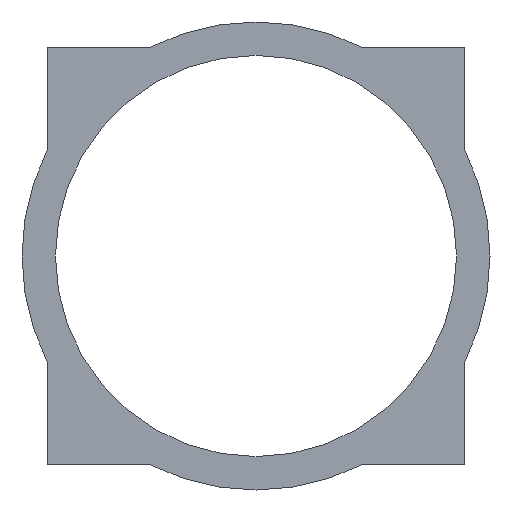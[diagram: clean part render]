
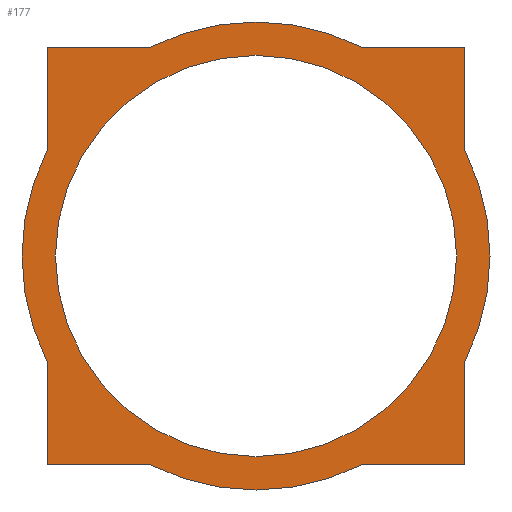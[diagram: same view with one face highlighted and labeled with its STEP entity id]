
A CAD part, front view. The second image highlights one B-rep face of the part: STEP entity #177.
In plain terms, the highlighted planar face has unit normal (0, -1, 0).
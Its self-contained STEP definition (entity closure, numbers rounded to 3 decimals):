
#2 = CIRCLE ( 'NONE', #349, 14. ) ;
#5 = VERTEX_POINT ( 'NONE', #474 ) ;
#7 = VECTOR ( 'NONE', #102, 1000. ) ;
#9 = FACE_BOUND ( 'NONE', #533, .T. ) ;
#13 = CARTESIAN_POINT ( 'NONE',  ( 0., -0.5, 0. ) ) ;
#20 = EDGE_CURVE ( 'NONE', #609, #88, #133, .T. ) ;
#45 = CARTESIAN_POINT ( 'NONE',  ( -12.5, -0.5, -12.5 ) ) ;
#46 = CARTESIAN_POINT ( 'NONE',  ( 0., -0.5, 0. ) ) ;
#47 = CARTESIAN_POINT ( 'NONE',  ( 6.305, -0.5, 12.5 ) ) ;
#48 = AXIS2_PLACEMENT_3D ( 'NONE', #475, #226, #379 ) ;
#51 = CIRCLE ( 'NONE', #593, 14. ) ;
#59 = CARTESIAN_POINT ( 'NONE',  ( -12.5, -0.5, 6.305 ) ) ;
#65 = VECTOR ( 'NONE', #87, 1000. ) ;
#66 = ORIENTED_EDGE ( 'NONE', *, *, #20, .T. ) ;
#72 = CIRCLE ( 'NONE', #48, 14. ) ;
#74 = EDGE_CURVE ( 'NONE', #248, #5, #2, .T. ) ;
#76 = VERTEX_POINT ( 'NONE', #93 ) ;
#80 = AXIS2_PLACEMENT_3D ( 'NONE', #610, #94, #191 ) ;
#82 = LINE ( 'NONE', #198, #7 ) ;
#86 = CARTESIAN_POINT ( 'NONE',  ( 0., -0.5, 0. ) ) ;
#87 = DIRECTION ( 'NONE',  ( 1., 0., 0. ) ) ;
#88 = VERTEX_POINT ( 'NONE', #371 ) ;
#90 = VERTEX_POINT ( 'NONE', #614 ) ;
#91 = ORIENTED_EDGE ( 'NONE', *, *, #264, .F. ) ;
#93 = CARTESIAN_POINT ( 'NONE',  ( -6.305, -0.5, -12.5 ) ) ;
#94 = DIRECTION ( 'NONE',  ( 0., 1., 0. ) ) ;
#102 = DIRECTION ( 'NONE',  ( -1., 0., 0. ) ) ;
#113 = CARTESIAN_POINT ( 'NONE',  ( -12.5, -0.5, -12.5 ) ) ;
#121 = VECTOR ( 'NONE', #440, 1000. ) ;
#124 = CARTESIAN_POINT ( 'NONE',  ( 12.5, -0.5, -12.5 ) ) ;
#125 = FACE_OUTER_BOUND ( 'NONE', #238, .T. ) ;
#133 = CIRCLE ( 'NONE', #310, 12. ) ;
#134 = CIRCLE ( 'NONE', #345, 12. ) ;
#139 = DIRECTION ( 'NONE',  ( 0., 1., 0. ) ) ;
#140 = EDGE_CURVE ( 'NONE', #306, #248, #82, .T. ) ;
#141 = CARTESIAN_POINT ( 'NONE',  ( 6.305, -0.5, -12.5 ) ) ;
#149 = DIRECTION ( 'NONE',  ( 0., 0., 1. ) ) ;
#160 = CARTESIAN_POINT ( 'NONE',  ( -12.5, -0.5, 12.5 ) ) ;
#164 = LINE ( 'NONE', #514, #465 ) ;
#177 = ADVANCED_FACE ( 'NONE', ( #125, #9 ), #233, .F. ) ;
#180 = VECTOR ( 'NONE', #221, 1000. ) ;
#182 = EDGE_CURVE ( 'NONE', #391, #529, #164, .T. ) ;
#191 = DIRECTION ( 'NONE',  ( 0., 0., 1. ) ) ;
#198 = CARTESIAN_POINT ( 'NONE',  ( 6.305, -0.5, -12.5 ) ) ;
#202 = CARTESIAN_POINT ( 'NONE',  ( -6.305, -0.5, 12.5 ) ) ;
#203 = ORIENTED_EDGE ( 'NONE', *, *, #466, .F. ) ;
#205 = ORIENTED_EDGE ( 'NONE', *, *, #140, .F. ) ;
#209 = CARTESIAN_POINT ( 'NONE',  ( 12.5, -0.5, -6.305 ) ) ;
#221 = DIRECTION ( 'NONE',  ( 1., 0., 0. ) ) ;
#224 = EDGE_CURVE ( 'NONE', #267, #436, #318, .T. ) ;
#226 = DIRECTION ( 'NONE',  ( 0., 1., 0. ) ) ;
#232 = VERTEX_POINT ( 'NONE', #419 ) ;
#233 = PLANE ( 'NONE',  #405 ) ;
#237 = DIRECTION ( 'NONE',  ( 0., 0., 1. ) ) ;
#238 = EDGE_LOOP ( 'NONE', ( #263, #91, #260, #203, #513, #262, #338, #478, #341, #354, #205, #443, #468 ) ) ;
#247 = EDGE_CURVE ( 'NONE', #88, #609, #134, .T. ) ;
#248 = VERTEX_POINT ( 'NONE', #141 ) ;
#250 = DIRECTION ( 'NONE',  ( 0., 0., 1. ) ) ;
#260 = ORIENTED_EDGE ( 'NONE', *, *, #426, .F. ) ;
#262 = ORIENTED_EDGE ( 'NONE', *, *, #224, .F. ) ;
#263 = ORIENTED_EDGE ( 'NONE', *, *, #182, .F. ) ;
#264 = EDGE_CURVE ( 'NONE', #232, #391, #308, .T. ) ;
#267 = VERTEX_POINT ( 'NONE', #569 ) ;
#296 = LINE ( 'NONE', #113, #121 ) ;
#299 = DIRECTION ( 'NONE',  ( 0., 0., 1. ) ) ;
#306 = VERTEX_POINT ( 'NONE', #394 ) ;
#308 = LINE ( 'NONE', #47, #65 ) ;
#310 = AXIS2_PLACEMENT_3D ( 'NONE', #46, #563, #377 ) ;
#314 = DIRECTION ( 'NONE',  ( 0., 0., 1. ) ) ;
#318 = CIRCLE ( 'NONE', #80, 14. ) ;
#320 = VERTEX_POINT ( 'NONE', #202 ) ;
#328 = EDGE_CURVE ( 'NONE', #436, #455, #527, .T. ) ;
#329 = CARTESIAN_POINT ( 'NONE',  ( 0., -0.5, 0. ) ) ;
#335 = VECTOR ( 'NONE', #314, 1000. ) ;
#338 = ORIENTED_EDGE ( 'NONE', *, *, #605, .F. ) ;
#341 = ORIENTED_EDGE ( 'NONE', *, *, #457, .F. ) ;
#343 = DIRECTION ( 'NONE',  ( 0., 1., 0. ) ) ;
#345 = AXIS2_PLACEMENT_3D ( 'NONE', #370, #517, #612 ) ;
#349 = AXIS2_PLACEMENT_3D ( 'NONE', #86, #374, #237 ) ;
#354 = ORIENTED_EDGE ( 'NONE', *, *, #74, .F. ) ;
#370 = CARTESIAN_POINT ( 'NONE',  ( 0., -0.5, 0. ) ) ;
#371 = CARTESIAN_POINT ( 'NONE',  ( 0., -0.5, -12. ) ) ;
#372 = DIRECTION ( 'NONE',  ( 0., 0., -1. ) ) ;
#374 = DIRECTION ( 'NONE',  ( 0., 1., 0. ) ) ;
#377 = DIRECTION ( 'NONE',  ( 0., 0., 1. ) ) ;
#379 = DIRECTION ( 'NONE',  ( 0., 0., 1. ) ) ;
#384 = CIRCLE ( 'NONE', #461, 14. ) ;
#385 = VERTEX_POINT ( 'NONE', #209 ) ;
#391 = VERTEX_POINT ( 'NONE', #488 ) ;
#392 = DIRECTION ( 'NONE',  ( 0., 0., 1. ) ) ;
#394 = CARTESIAN_POINT ( 'NONE',  ( 12.5, -0.5, -12.5 ) ) ;
#398 = LINE ( 'NONE', #490, #180 ) ;
#403 = DIRECTION ( 'NONE',  ( 0., 1., 0. ) ) ;
#405 = AXIS2_PLACEMENT_3D ( 'NONE', #329, #139, #149 ) ;
#408 = VECTOR ( 'NONE', #250, 1000. ) ;
#417 = VECTOR ( 'NONE', #503, 1000. ) ;
#419 = CARTESIAN_POINT ( 'NONE',  ( 6.305, -0.5, 12.5 ) ) ;
#426 = EDGE_CURVE ( 'NONE', #320, #232, #384, .T. ) ;
#436 = VERTEX_POINT ( 'NONE', #59 ) ;
#440 = DIRECTION ( 'NONE',  ( -1., 0., 0. ) ) ;
#443 = ORIENTED_EDGE ( 'NONE', *, *, #578, .F. ) ;
#444 = EDGE_CURVE ( 'NONE', #76, #90, #296, .T. ) ;
#449 = CARTESIAN_POINT ( 'NONE',  ( 0., -0.5, 0. ) ) ;
#455 = VERTEX_POINT ( 'NONE', #160 ) ;
#457 = EDGE_CURVE ( 'NONE', #5, #76, #51, .T. ) ;
#461 = AXIS2_PLACEMENT_3D ( 'NONE', #13, #343, #392 ) ;
#465 = VECTOR ( 'NONE', #372, 1000. ) ;
#466 = EDGE_CURVE ( 'NONE', #455, #320, #398, .T. ) ;
#468 = ORIENTED_EDGE ( 'NONE', *, *, #599, .F. ) ;
#474 = CARTESIAN_POINT ( 'NONE',  ( 0., -0.5, -14. ) ) ;
#475 = CARTESIAN_POINT ( 'NONE',  ( 0., -0.5, 0. ) ) ;
#478 = ORIENTED_EDGE ( 'NONE', *, *, #444, .F. ) ;
#488 = CARTESIAN_POINT ( 'NONE',  ( 12.5, -0.5, 12.5 ) ) ;
#490 = CARTESIAN_POINT ( 'NONE',  ( -12.5, -0.5, 12.5 ) ) ;
#503 = DIRECTION ( 'NONE',  ( 0., 0., -1. ) ) ;
#513 = ORIENTED_EDGE ( 'NONE', *, *, #328, .F. ) ;
#514 = CARTESIAN_POINT ( 'NONE',  ( 12.5, -0.5, 6.305 ) ) ;
#516 = CARTESIAN_POINT ( 'NONE',  ( 0., -0.5, 12. ) ) ;
#517 = DIRECTION ( 'NONE',  ( 0., 1., 0. ) ) ;
#527 = LINE ( 'NONE', #586, #408 ) ;
#529 = VERTEX_POINT ( 'NONE', #594 ) ;
#533 = EDGE_LOOP ( 'NONE', ( #553, #66 ) ) ;
#546 = LINE ( 'NONE', #124, #417 ) ;
#553 = ORIENTED_EDGE ( 'NONE', *, *, #247, .T. ) ;
#563 = DIRECTION ( 'NONE',  ( 0., 1., 0. ) ) ;
#569 = CARTESIAN_POINT ( 'NONE',  ( -12.5, -0.5, -6.305 ) ) ;
#578 = EDGE_CURVE ( 'NONE', #385, #306, #546, .T. ) ;
#579 = LINE ( 'NONE', #45, #335 ) ;
#586 = CARTESIAN_POINT ( 'NONE',  ( -12.5, -0.5, 6.305 ) ) ;
#593 = AXIS2_PLACEMENT_3D ( 'NONE', #449, #403, #299 ) ;
#594 = CARTESIAN_POINT ( 'NONE',  ( 12.5, -0.5, 6.305 ) ) ;
#599 = EDGE_CURVE ( 'NONE', #529, #385, #72, .T. ) ;
#605 = EDGE_CURVE ( 'NONE', #90, #267, #579, .T. ) ;
#609 = VERTEX_POINT ( 'NONE', #516 ) ;
#610 = CARTESIAN_POINT ( 'NONE',  ( 0., -0.5, 0. ) ) ;
#612 = DIRECTION ( 'NONE',  ( 0., 0., 1. ) ) ;
#614 = CARTESIAN_POINT ( 'NONE',  ( -12.5, -0.5, -12.5 ) ) ;
